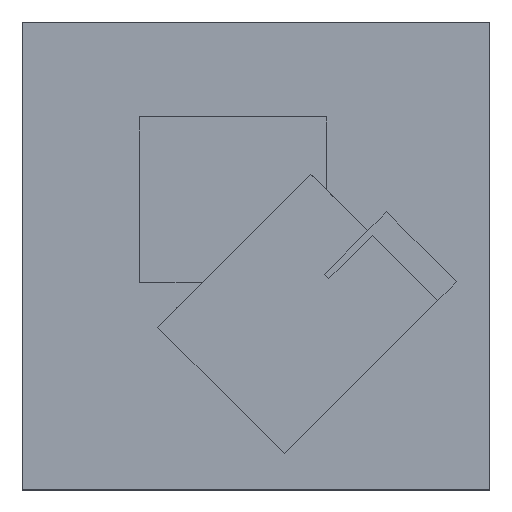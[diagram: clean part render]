
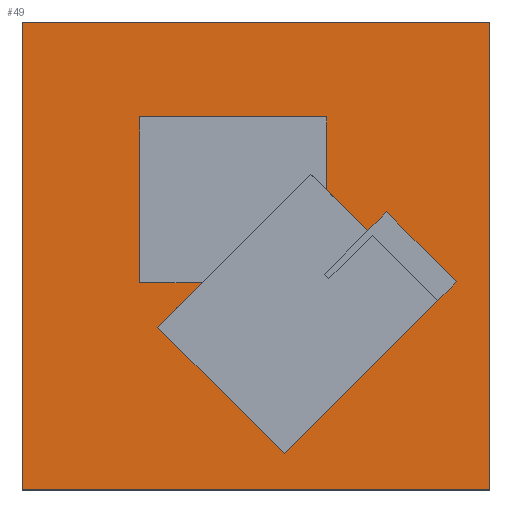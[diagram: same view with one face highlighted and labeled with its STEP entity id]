
A CAD part, top view. The second image highlights one B-rep face of the part: STEP entity #49.
In plain terms, the highlighted planar face has unit normal (0, 0, 1).
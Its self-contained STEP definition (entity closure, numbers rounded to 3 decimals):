
#11=FACE_BOUND('',#138,.T.);
#49=ADVANCED_FACE('',(#93,#11),#687,.T.);
#93=FACE_OUTER_BOUND('',#137,.T.);
#137=EDGE_LOOP('',(#282,#283,#284,#285));
#138=EDGE_LOOP('',(#286,#287,#288,#289,#290,#291,#292,#293,#294,#295,#296));
#282=ORIENTED_EDGE('',*,*,#435,.T.);
#283=ORIENTED_EDGE('',*,*,#436,.T.);
#284=ORIENTED_EDGE('',*,*,#437,.T.);
#285=ORIENTED_EDGE('',*,*,#438,.T.);
#286=ORIENTED_EDGE('',*,*,#446,.F.);
#287=ORIENTED_EDGE('',*,*,#445,.F.);
#288=ORIENTED_EDGE('',*,*,#444,.F.);
#289=ORIENTED_EDGE('',*,*,#440,.F.);
#290=ORIENTED_EDGE('',*,*,#439,.F.);
#291=ORIENTED_EDGE('',*,*,#442,.F.);
#292=ORIENTED_EDGE('',*,*,#441,.F.);
#293=ORIENTED_EDGE('',*,*,#443,.F.);
#294=ORIENTED_EDGE('',*,*,#449,.F.);
#295=ORIENTED_EDGE('',*,*,#448,.F.);
#296=ORIENTED_EDGE('',*,*,#447,.F.);
#435=EDGE_CURVE('',#630,#631,#543,.T.);
#436=EDGE_CURVE('',#631,#632,#544,.T.);
#437=EDGE_CURVE('',#632,#633,#545,.T.);
#438=EDGE_CURVE('',#633,#630,#546,.T.);
#439=EDGE_CURVE('',#634,#635,#547,.T.);
#440=EDGE_CURVE('',#635,#636,#548,.T.);
#441=EDGE_CURVE('',#637,#638,#549,.T.);
#442=EDGE_CURVE('',#638,#634,#550,.T.);
#443=EDGE_CURVE('',#639,#637,#551,.T.);
#444=EDGE_CURVE('',#636,#640,#552,.T.);
#445=EDGE_CURVE('',#640,#641,#553,.T.);
#446=EDGE_CURVE('',#641,#642,#554,.T.);
#447=EDGE_CURVE('',#642,#643,#555,.T.);
#448=EDGE_CURVE('',#643,#644,#556,.T.);
#449=EDGE_CURVE('',#644,#639,#557,.T.);
#543=B_SPLINE_CURVE_WITH_KNOTS('',1,(#1128,#1129),.UNSPECIFIED.,.F.,.F.,
(2,2),(0.,1750.),.UNSPECIFIED.);
#544=B_SPLINE_CURVE_WITH_KNOTS('',1,(#1130,#1131),.UNSPECIFIED.,.F.,.F.,
(2,2),(0.,1750.),.UNSPECIFIED.);
#545=B_SPLINE_CURVE_WITH_KNOTS('',1,(#1132,#1133),.UNSPECIFIED.,.F.,.F.,
(2,2),(0.,1750.),.UNSPECIFIED.);
#546=B_SPLINE_CURVE_WITH_KNOTS('',1,(#1134,#1135),.UNSPECIFIED.,.F.,.F.,
(2,2),(0.,1750.),.UNSPECIFIED.);
#547=B_SPLINE_CURVE_WITH_KNOTS('',1,(#1136,#1137),.UNSPECIFIED.,.F.,.F.,
(2,2),(0.,620.),.UNSPECIFIED.);
#548=B_SPLINE_CURVE_WITH_KNOTS('',1,(#1138,#1139),.UNSPECIFIED.,.F.,.F.,
(2,2),(0.,234.01),.UNSPECIFIED.);
#549=B_SPLINE_CURVE_WITH_KNOTS('',1,(#1140,#1141),.UNSPECIFIED.,.F.,.F.,
(2,2),(0.,272.954),.UNSPECIFIED.);
#550=B_SPLINE_CURVE_WITH_KNOTS('',1,(#1142,#1143),.UNSPECIFIED.,.F.,.F.,
(2,2),(0.,700.),.UNSPECIFIED.);
#551=B_SPLINE_CURVE_WITH_KNOTS('',1,(#1144,#1145),.UNSPECIFIED.,.F.,.F.,
(2,2),(0.,215.894),.UNSPECIFIED.);
#552=B_SPLINE_CURVE_WITH_KNOTS('',1,(#1146,#1147),.UNSPECIFIED.,.F.,.F.,
(2,2),(574.903,810.),.UNSPECIFIED.);
#553=B_SPLINE_CURVE_WITH_KNOTS('',1,(#1148,#1149),.UNSPECIFIED.,.F.,.F.,
(2,2),(0.,670.),.UNSPECIFIED.);
#554=B_SPLINE_CURVE_WITH_KNOTS('',1,(#1150,#1151),.UNSPECIFIED.,.F.,.F.,
(2,2),(0.,810.),.UNSPECIFIED.);
#555=B_SPLINE_CURVE_WITH_KNOTS('',1,(#1152,#1153),.UNSPECIFIED.,.F.,.F.,
(2,2),(0.,100.),.UNSPECIFIED.);
#556=B_SPLINE_CURVE_WITH_KNOTS('',1,(#1154,#1155),.UNSPECIFIED.,.F.,.F.,
(2,2),(0.,370.),.UNSPECIFIED.);
#557=B_SPLINE_CURVE_WITH_KNOTS('',1,(#1156,#1157),.UNSPECIFIED.,.F.,.F.,
(2,2),(0.,100.),.UNSPECIFIED.);
#630=VERTEX_POINT('',#1098);
#631=VERTEX_POINT('',#1099);
#632=VERTEX_POINT('',#1100);
#633=VERTEX_POINT('',#1101);
#634=VERTEX_POINT('',#1102);
#635=VERTEX_POINT('',#1103);
#636=VERTEX_POINT('',#1104);
#637=VERTEX_POINT('',#1105);
#638=VERTEX_POINT('',#1106);
#639=VERTEX_POINT('',#1107);
#640=VERTEX_POINT('',#1108);
#641=VERTEX_POINT('',#1109);
#642=VERTEX_POINT('',#1110);
#643=VERTEX_POINT('',#1111);
#644=VERTEX_POINT('',#1112);
#687=PLANE('',#819);
#819=AXIS2_PLACEMENT_3D('',#1081,#866,$);
#866=DIRECTION('',(0.,0.,1.));
#1081=CARTESIAN_POINT('',(0.,0.,0.));
#1098=CARTESIAN_POINT('',(0.,0.,0.));
#1099=CARTESIAN_POINT('',(1750.,0.,0.));
#1100=CARTESIAN_POINT('',(1750.,1750.,0.));
#1101=CARTESIAN_POINT('',(0.,1750.,0.));
#1102=CARTESIAN_POINT('',(440.,1395.,0.));
#1103=CARTESIAN_POINT('',(440.,775.,0.));
#1104=CARTESIAN_POINT('',(674.01,775.,0.));
#1105=CARTESIAN_POINT('',(1140.,1122.046,0.));
#1106=CARTESIAN_POINT('',(1140.,1395.,0.));
#1107=CARTESIAN_POINT('',(1292.66,969.386,0.));
#1108=CARTESIAN_POINT('',(507.771,608.762,0.));
#1109=CARTESIAN_POINT('',(981.533,135.,0.));
#1110=CARTESIAN_POINT('',(1554.289,707.756,0.));
#1111=CARTESIAN_POINT('',(1625.,778.467,0.));
#1112=CARTESIAN_POINT('',(1363.37,1040.097,0.));
#1128=CARTESIAN_POINT('',(0.,0.,0.));
#1129=CARTESIAN_POINT('',(1750.,0.,0.));
#1130=CARTESIAN_POINT('',(1750.,0.,0.));
#1131=CARTESIAN_POINT('',(1750.,1750.,0.));
#1132=CARTESIAN_POINT('',(1750.,1750.,0.));
#1133=CARTESIAN_POINT('',(0.,1750.,0.));
#1134=CARTESIAN_POINT('',(0.,1750.,0.));
#1135=CARTESIAN_POINT('',(0.,0.,0.));
#1136=CARTESIAN_POINT('',(440.,1395.,0.));
#1137=CARTESIAN_POINT('',(440.,775.,0.));
#1138=CARTESIAN_POINT('',(440.,775.,0.));
#1139=CARTESIAN_POINT('',(674.01,775.,0.));
#1140=CARTESIAN_POINT('',(1140.,1122.046,0.));
#1141=CARTESIAN_POINT('',(1140.,1395.,0.));
#1142=CARTESIAN_POINT('',(1140.,1395.,0.));
#1143=CARTESIAN_POINT('',(440.,1395.,0.));
#1144=CARTESIAN_POINT('',(1292.66,969.386,0.));
#1145=CARTESIAN_POINT('',(1140.,1122.046,0.));
#1146=CARTESIAN_POINT('',(674.01,775.,0.));
#1147=CARTESIAN_POINT('',(507.771,608.762,0.));
#1148=CARTESIAN_POINT('',(507.771,608.762,0.));
#1149=CARTESIAN_POINT('',(981.533,135.,0.));
#1150=CARTESIAN_POINT('',(981.533,135.,0.));
#1151=CARTESIAN_POINT('',(1554.289,707.756,0.));
#1152=CARTESIAN_POINT('',(1554.289,707.756,0.));
#1153=CARTESIAN_POINT('',(1625.,778.467,0.));
#1154=CARTESIAN_POINT('',(1625.,778.467,0.));
#1155=CARTESIAN_POINT('',(1363.37,1040.097,0.));
#1156=CARTESIAN_POINT('',(1363.37,1040.097,0.));
#1157=CARTESIAN_POINT('',(1292.66,969.386,0.));
